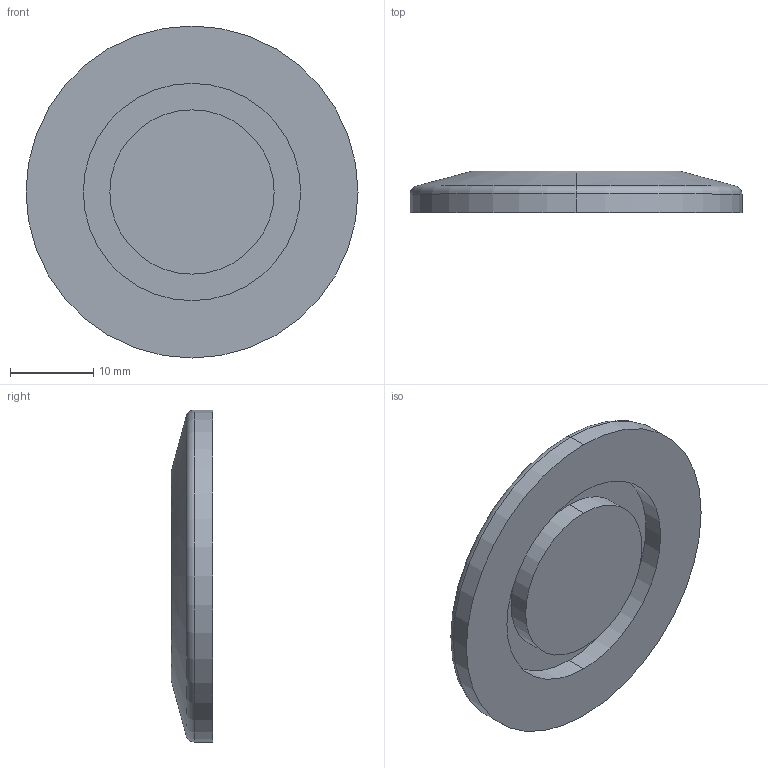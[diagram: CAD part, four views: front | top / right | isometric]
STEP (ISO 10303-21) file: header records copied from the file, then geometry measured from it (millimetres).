
FILE_DESCRIPTION (( 'STEP AP214' ), '1' );
FILE_NAME ('W3BF25.STEP', '2019-03-25T08:31:25', ( '' ), ( '' ), 'SwSTEP 2.0', 'SolidWorks 2018', '' );
FILE_SCHEMA (( 'AUTOMOTIVE_DESIGN' ));
Length unit declared in the file: millimetre
Products named in the file (1): W3BF25
Bounding box: 40 x 5 x 40 mm (x, y, z)
Volume: 4869.8 mm3; surface area: 3249.7 mm2
Topology: 1 solids, 1 shells, 14 faces, 26 edges, 16 vertices
Faces by surface type: cylinder 6, plane 4, torus 2, cone 2
Entity records: 390 total; most frequent: DIRECTION 74, CARTESIAN_POINT 57, ORIENTED_EDGE 52, AXIS2_PLACEMENT_3D 33, EDGE_CURVE 26, CIRCLE 18, EDGE_LOOP 16, VERTEX_POINT 16
